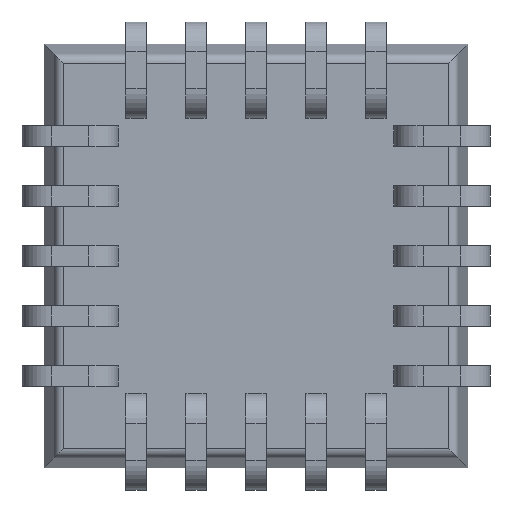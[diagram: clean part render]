
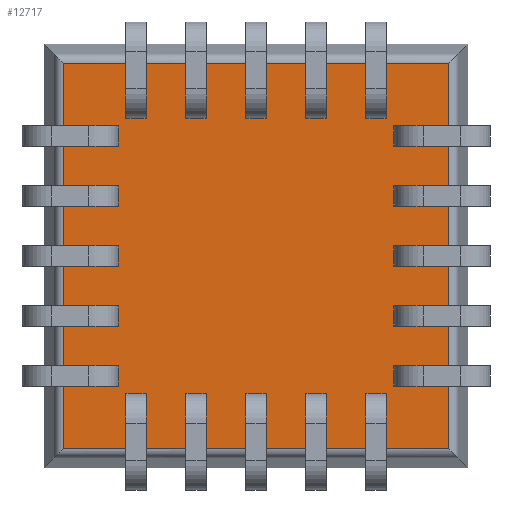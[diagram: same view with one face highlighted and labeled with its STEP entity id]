
A CAD part, front view. The second image highlights one B-rep face of the part: STEP entity #12717.
In plain terms, the highlighted planar face has unit normal (0, -1, 0).
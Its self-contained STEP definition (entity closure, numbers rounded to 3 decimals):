
#12678 = CARTESIAN_POINT ( 'NONE',  ( -4.077, 0.75, 4.077 ) ) ;
#12679 = VERTEX_POINT ( 'NONE', #12678 ) ;
#12680 = CARTESIAN_POINT ( 'NONE',  ( -4.077, 0.75, -4.077 ) ) ;
#12681 = VERTEX_POINT ( 'NONE', #12680 ) ;
#12682 = CARTESIAN_POINT ( 'NONE',  ( -4.077, 0.75, -4.245 ) ) ;
#12683 = DIRECTION ( 'NONE',  ( 0., 0., -1. ) ) ;
#12684 = VECTOR ( 'NONE', #12683, 1000. ) ;
#12685 = LINE ( 'NONE', #12682, #12684 ) ;
#12686 = EDGE_CURVE ( 'NONE', #12679, #12681, #12685, .T. ) ;
#12687 = ORIENTED_EDGE ( 'NONE', *, *, #12686, .T. ) ;
#12688 = CARTESIAN_POINT ( 'NONE',  ( 4.077, 0.75, -4.077 ) ) ;
#12689 = VERTEX_POINT ( 'NONE', #12688 ) ;
#12690 = CARTESIAN_POINT ( 'NONE',  ( 4.245, 0.75, -4.077 ) ) ;
#12691 = DIRECTION ( 'NONE',  ( 1., 0., 0. ) ) ;
#12692 = VECTOR ( 'NONE', #12691, 1000. ) ;
#12693 = LINE ( 'NONE', #12690, #12692 ) ;
#12694 = EDGE_CURVE ( 'NONE', #12681, #12689, #12693, .T. ) ;
#12695 = ORIENTED_EDGE ( 'NONE', *, *, #12694, .T. ) ;
#12696 = CARTESIAN_POINT ( 'NONE',  ( 4.077, 0.75, 4.077 ) ) ;
#12697 = VERTEX_POINT ( 'NONE', #12696 ) ;
#12698 = CARTESIAN_POINT ( 'NONE',  ( 4.077, 0.75, 4.245 ) ) ;
#12699 = DIRECTION ( 'NONE',  ( 0., 0., 1. ) ) ;
#12700 = VECTOR ( 'NONE', #12699, 1000. ) ;
#12701 = LINE ( 'NONE', #12698, #12700 ) ;
#12702 = EDGE_CURVE ( 'NONE', #12689, #12697, #12701, .T. ) ;
#12703 = ORIENTED_EDGE ( 'NONE', *, *, #12702, .T. ) ;
#12704 = CARTESIAN_POINT ( 'NONE',  ( -4.245, 0.75, 4.077 ) ) ;
#12705 = DIRECTION ( 'NONE',  ( -1., 0., 0. ) ) ;
#12706 = VECTOR ( 'NONE', #12705, 1000. ) ;
#12707 = LINE ( 'NONE', #12704, #12706 ) ;
#12708 = EDGE_CURVE ( 'NONE', #12697, #12679, #12707, .T. ) ;
#12709 = ORIENTED_EDGE ( 'NONE', *, *, #12708, .T. ) ;
#12710 = EDGE_LOOP ( 'NONE', ( #12687, #12695, #12703, #12709 ) ) ;
#12711 = FACE_OUTER_BOUND ( 'NONE', #12710, .T. ) ;
#12712 = CARTESIAN_POINT ( 'NONE',  ( 0., 0.75, 0. ) ) ;
#12713 = DIRECTION ( 'NONE',  ( 0., 1., 0. ) ) ;
#12714 = DIRECTION ( 'NONE',  ( 0., 0., 1. ) ) ;
#12715 = AXIS2_PLACEMENT_3D ( 'NONE', #12712, #12713, #12714 ) ;
#12716 = PLANE ( 'NONE', #12715 ) ;
#12717 = ADVANCED_FACE ( 'NONE', ( #12711 ), #12716, .F. ) ;
